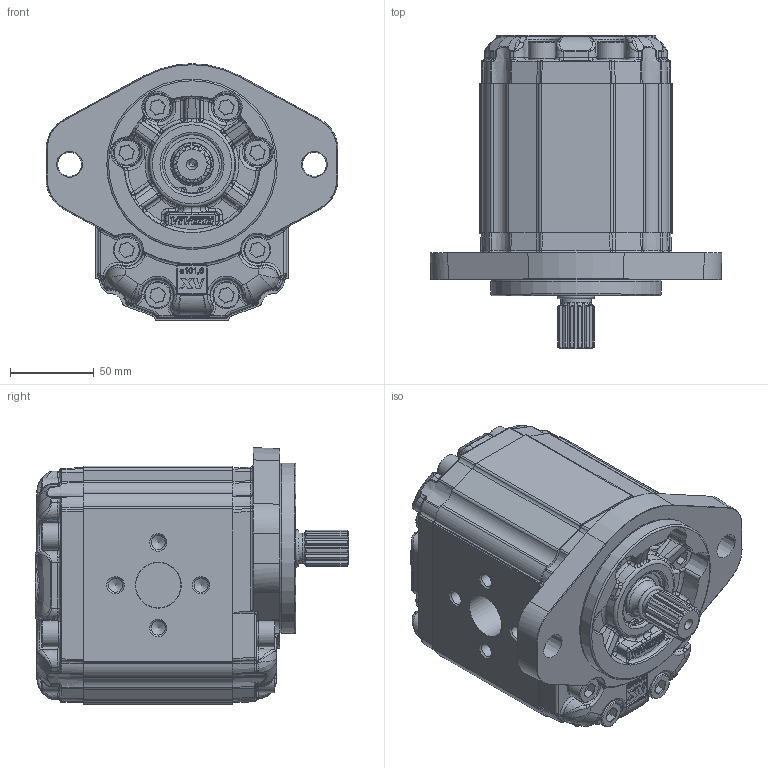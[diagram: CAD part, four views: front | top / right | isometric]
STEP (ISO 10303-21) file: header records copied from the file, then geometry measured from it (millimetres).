
FILE_DESCRIPTION(/* description */ ('Unknown'),/* implementation_level */ '2;1');
FILE_NAME(/* name */ 'X3M7931IBBE',/* time_stamp */ '2021-04-26T12:10:43+02:00',/* author */ ('Unknown'),/* organization */ ('Unknown'),/* preprocessor_version */ 'ST-DEVELOPER v16.7',/* originating_system */ 'Solid Edge',/* authorisation */ 'Unknown');
FILE_SCHEMA (('AUTOMOTIVE_DESIGN {1 0 10303 214 3 1 1}'));
Products named in the file (5): X3M7931IBBE; X3M31; 3I; X3BBH89; XM331-E
Assembly tree (4 placements, depth 2):
  X3M7931IBBE
    X3M31
    3I
    X3BBH89
    XM331-E
Bounding box: 174 x 187.2 x 153 mm (x, y, z)
Volume: 2106090.5 mm3; surface area: 208269.6 mm2
Topology: 4 solids, 21 shells, 2464 faces, 6311 edges, 3984 vertices
Faces by surface type: bspline 1018, plane 715, cylinder 509, cone 107, torus 99, sphere 16
Full cylindrical faces by diameter (mm): 2 x2, 8.376 x8, 10 x16, 15.25 x1, 15.8 x16, 16 x16, 18 x2, 24.98 x1, 25.5 x1, 26.8 x1, 27 x2, 29.425 x1, 31.42 x1, 33.304 x1, 34.7 x1, 35 x2, 35.2 x1, 37 x1, 101.6 x1
Entity records: 136301 total; most frequent: CARTESIAN_POINT 71470, ORIENTED_EDGE 12146, EDGE_CURVE 6073, DIRECTION 5742, VERTEX_POINT 3917, B_SPLINE_CURVE_WITH_KNOTS 3782, FACE_BOUND 2742, EDGE_LOOP 2732
